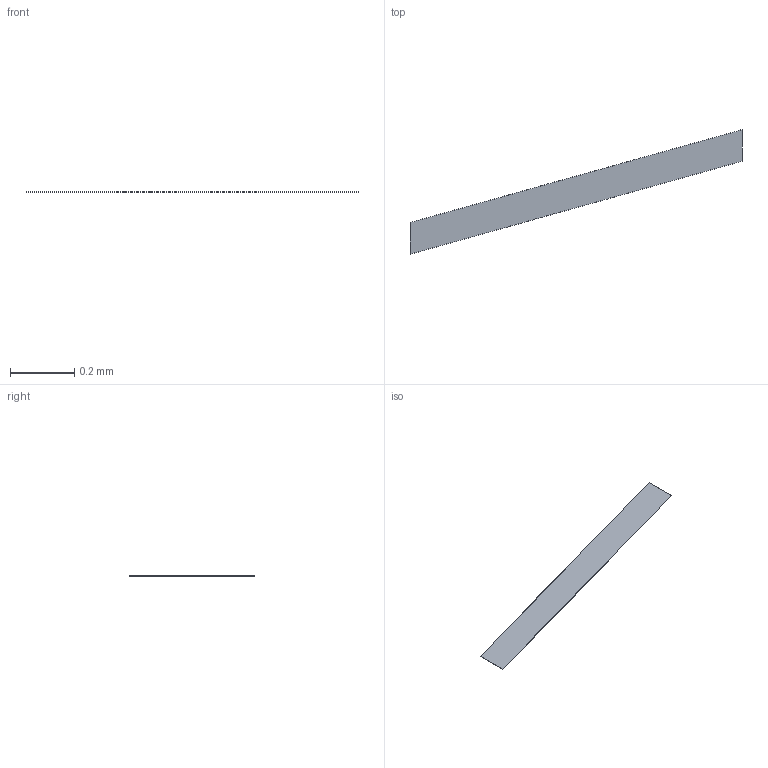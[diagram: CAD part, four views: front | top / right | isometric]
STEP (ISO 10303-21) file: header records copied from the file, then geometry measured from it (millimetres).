
FILE_DESCRIPTION(/* description */ ('STEP AP242 Edition 2','CAx-IF Rec.Pracs.---Representation and Presentation of Product Manufacturing Information (PMI)---4.0---2014-10-13','CAx-IF Rec.Pracs.---3D Tessellated Geometry---0.4---2014-09-14','2;1','CAx-IF Rec.Pracs.---User Defined Attributes---1.5---2016-08-15'),/* implementation_level */ '2;1');
FILE_NAME(/* name */ 'Drone Layout - Surface 340',/* time_stamp */ '2026-10-04T22:22:56Z',/* author */ (''),/* organization */ (''),/* preprocessor_version */ 'ST-DEVELOPER v20',/* originating_system */ 'ONSHAPE BY PTC INC, 1.221',/* authorisation */ ' ');
FILE_SCHEMA (('AP242_MANAGED_MODEL_BASED_3D_ENGINEERING_MIM_LF { 1 0 10303 442 3 1 4 }'));
Length unit declared in the file: metre
Products named in the file (1): VL53L0X:1__Body36
Bounding box: 1.03 x 0.39 x 0 mm (x, y, z)
Volume: 0 mm3; surface area: 0.2 mm2
Topology: 1 solids, 1 shells, 6 faces, 12 edges, 8 vertices
Faces by surface type: plane 6
Entity records: 169 total; most frequent: CARTESIAN_POINT 27, DIRECTION 26, ORIENTED_EDGE 24, EDGE_CURVE 12, LINE 12, VECTOR 12, VERTEX_POINT 8, AXIS2_PLACEMENT_3D 7
